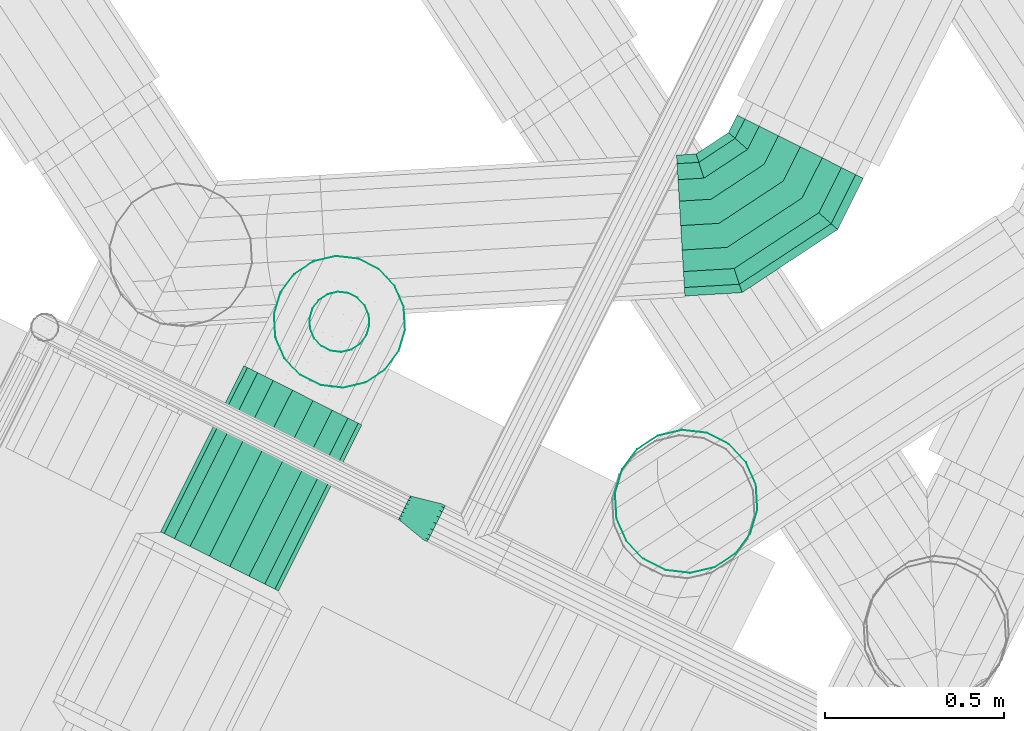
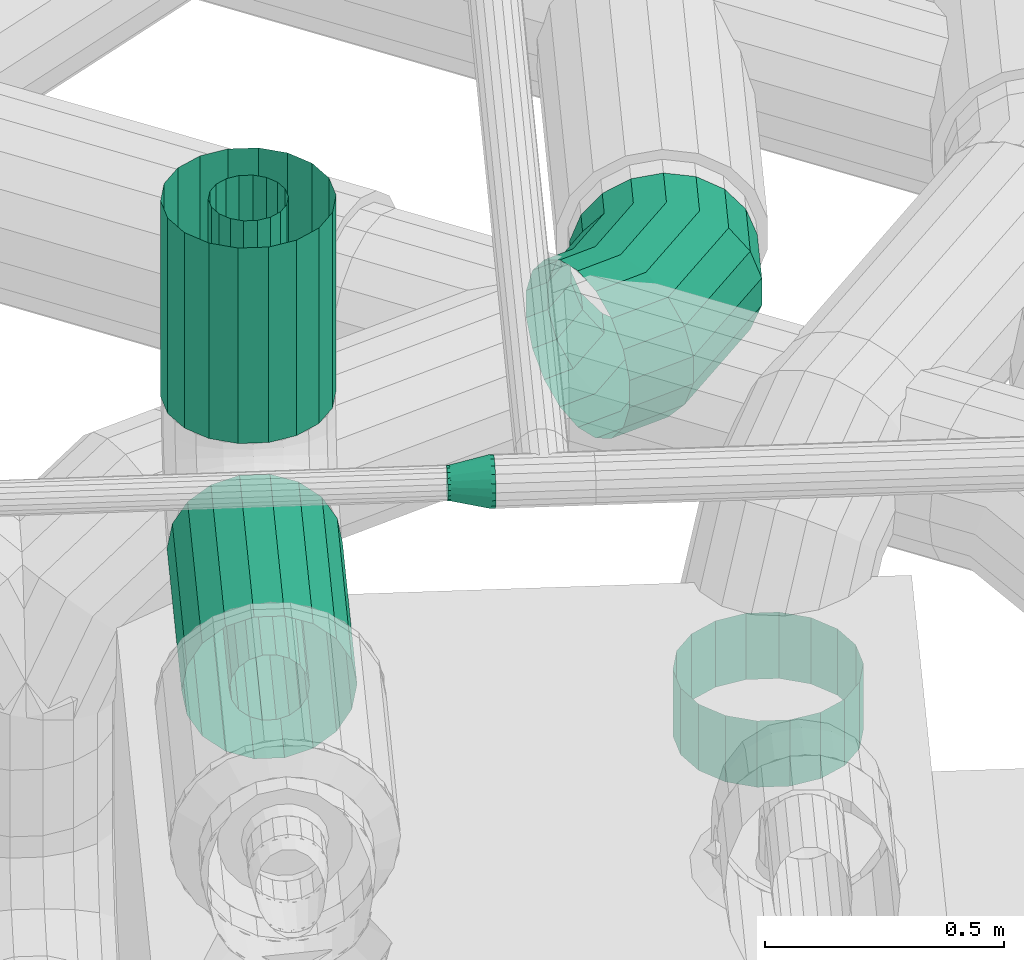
# One storey, part 135 of 206: 3 flow segments, 2 flow fittings.
"""IFC2X3 building model written with IfcOpenShell, lengths in metres."""

from ifc_helpers import new_model, si_unit, derived_unit, direction, frame, origin, place, context, subcontext, project, spatial, face_set, surface_model, source, transform, mapped, material, type_object, type_shapes, element, save


model = new_model("IFC2X3")

# Units and contexts
model_context = context("Model", 3, precision=5.2338327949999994e-05, world=origin(), true_north=direction((0.0, 1.0)))
body_context = subcontext(model_context, "Body", "Model", "MODEL_VIEW")
ifc_project = project(units=[si_unit("LENGTHUNIT", "METRE"), si_unit("AREAUNIT", "SQUARE_METRE"), si_unit("VOLUMEUNIT", "CUBIC_METRE"), si_unit("MASSUNIT", "GRAM", prefix="KILO"), si_unit("PLANEANGLEUNIT", "RADIAN"), derived_unit("THERMALTRANSMITTANCEUNIT", [(si_unit("MASSUNIT", "GRAM", prefix="KILO"), 1), (si_unit("THERMODYNAMICTEMPERATUREUNIT", "KELVIN"), -1), (si_unit("TIMEUNIT", "SECOND"), -3)])], contexts=[model_context])

# Site, building, storey
site_placement = place(None, frame((0.0, 0.0, 0.0), z_axis=(0.0, 0.0, 1.0), x_axis=(0.8939966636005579, -0.4480736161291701, 0.0)))
site = spatial("IfcSite", under=ifc_project, at=site_placement, Name="Default", CompositionType="ELEMENT")
building_placement = place(site_placement, origin())
building = spatial("IfcBuilding", under=site, at=building_placement, CompositionType="ELEMENT")
storey_placement = place(building_placement, origin())
storey = spatial("IfcBuildingStorey", under=building, at=storey_placement, Name="Erdgeschoss", CompositionType="ELEMENT", Elevation=0.0)

# Flow fitting
ifc_material_1 = material(Name="IfcSurfaceStyle #251447")
distribution_element_type_1 = type_object("IfcDistributionElementType", Name="Segmentbogen 3 teilig 296588:Segmentbogen 3 teilig 296588", material=ifc_material_1)
shared_shape_1 = source(origin(), body_context, "Body", "SurfaceModel", [
    surface_model("IfcFaceBasedSurfaceModel", [(23.815885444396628, 9.127019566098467, 2.0), (23.78168343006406, 9.186259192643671, 2.012061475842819), (23.858630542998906, 9.23068462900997, 2.012061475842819), (23.90870576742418, 9.180609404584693, 2.0), (23.751606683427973, 9.23835364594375, 2.0467911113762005), (23.81459512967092, 9.27472004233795, 2.0467911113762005), (23.72928290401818, 9.277019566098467, 2.0999999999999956), (23.781910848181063, 9.307404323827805, 2.0999999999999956), (23.7174046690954, 9.297593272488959, 2.1652703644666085), (23.764519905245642, 9.32479526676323, 2.1652703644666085), (23.7174046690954, 9.297593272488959, 2.2347296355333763), (23.764519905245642, 9.324795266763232, 2.2347296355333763), (23.729282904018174, 9.277019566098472, 2.2999999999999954), (23.78191084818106, 9.307404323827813, 2.2999999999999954), (23.751606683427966, 9.238353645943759, 2.3532088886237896), (23.81459512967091, 9.274720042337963, 2.353208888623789), (23.781683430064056, 9.186259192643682, 2.3879385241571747), (23.858630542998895, 9.230684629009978, 2.3879385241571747), (23.815885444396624, 9.127019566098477, 2.3999999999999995), (23.908705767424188, 9.18060940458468, 2.399999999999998), (23.850087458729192, 9.067779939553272, 2.3879385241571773), (23.95878099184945, 9.130534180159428, 2.3879385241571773), (23.88016420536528, 9.015685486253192, 2.3532088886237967), (24.002816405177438, 9.086498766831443, 2.3532088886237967), (23.902487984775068, 8.977019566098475, 2.300000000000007), (24.035500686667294, 9.05381448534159, 2.300000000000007), (23.914366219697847, 8.956445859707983, 2.23472963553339), (24.052891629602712, 9.036423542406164, 2.23472963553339), (23.914366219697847, 8.956445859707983, 2.1652703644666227), (24.052891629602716, 9.036423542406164, 2.1652703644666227), (23.902487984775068, 8.977019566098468, 2.100000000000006), (24.035500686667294, 9.053814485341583, 2.1000000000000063), (23.88016420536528, 9.015685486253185, 2.046791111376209), (24.002816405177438, 9.086498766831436, 2.0467911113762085), (23.850087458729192, 9.067779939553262, 2.012061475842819), (23.95878099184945, 9.130534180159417, 2.0120614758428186), (23.94748141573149, 9.384578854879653, 2.012061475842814), (24.015885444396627, 9.366250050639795, 2.0), (23.887327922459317, 9.400696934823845, 2.046791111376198), (23.842680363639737, 9.412660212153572, 2.0999999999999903), (23.818923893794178, 9.419025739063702, 2.1652703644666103), (23.818923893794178, 9.419025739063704, 2.2347296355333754), (23.842680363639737, 9.412660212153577, 2.2999999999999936), (23.88732792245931, 9.400696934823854, 2.3532088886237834), (23.947481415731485, 9.384578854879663, 2.387938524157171), (24.015885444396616, 9.366250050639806, 2.3999999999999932), (24.084289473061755, 9.347921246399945, 2.3879385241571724), (24.144442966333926, 9.331803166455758, 2.353208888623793), (24.189090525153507, 9.31983988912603, 2.300000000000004), (24.212846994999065, 9.313474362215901, 2.2347296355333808), (24.212846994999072, 9.313474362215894, 2.1652703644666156), (24.189090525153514, 9.319839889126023, 2.1), (24.144442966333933, 9.33180316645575, 2.0467911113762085), (24.084289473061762, 9.347921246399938, 2.012061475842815), (23.9474814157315, 9.473429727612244, 2.0120614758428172), (24.015885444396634, 9.473429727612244, 2.0), (23.88732792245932, 9.473429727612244, 2.0467911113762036), (23.842680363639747, 9.473429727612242, 2.100000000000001), (23.81892389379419, 9.473429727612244, 2.1652703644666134), (23.81892389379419, 9.473429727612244, 2.234729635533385), (23.84268036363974, 9.473429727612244, 2.299999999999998), (23.88732792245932, 9.473429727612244, 2.353208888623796), (23.9474814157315, 9.473429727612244, 2.387938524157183), (24.015885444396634, 9.473429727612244, 2.4000000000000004), (24.084289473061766, 9.473429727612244, 2.387938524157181), (24.14444296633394, 9.473429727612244, 2.353208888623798), (24.18909052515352, 9.473429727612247, 2.2999999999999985), (24.212846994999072, 9.473429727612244, 2.234729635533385), (24.212846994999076, 9.473429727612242, 2.165270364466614), (24.18909052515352, 9.473429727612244, 2.1000000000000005), (24.14444296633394, 9.473429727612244, 2.046791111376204), (24.084289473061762, 9.473429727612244, 2.012061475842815)], [face_set([[[0, 1, 2, 3]], [[1, 4, 5, 2]], [[4, 6, 7, 5]], [[6, 8, 9, 7]], [[8, 10, 11, 9]], [[10, 12, 13, 11]], [[12, 14, 15, 13]], [[14, 16, 17, 15]], [[16, 18, 19, 17]], [[18, 20, 21, 19]], [[20, 22, 23, 21]], [[22, 24, 25, 23]], [[24, 26, 27, 25]], [[26, 28, 29, 27]], [[28, 30, 31, 29]], [[30, 32, 33, 31]], [[32, 34, 35, 33]], [[34, 0, 3, 35]], [[3, 2, 36, 37]], [[2, 5, 38, 36]], [[5, 7, 39, 38]], [[7, 9, 40, 39]], [[9, 11, 41, 40]], [[11, 13, 42, 41]], [[13, 15, 43, 42]], [[15, 17, 44, 43]], [[17, 19, 45, 44]], [[19, 21, 46, 45]], [[21, 23, 47, 46]], [[23, 25, 48, 47]], [[25, 27, 49, 48]], [[27, 29, 50, 49]], [[29, 31, 51, 50]], [[31, 33, 52, 51]], [[33, 35, 53, 52]], [[35, 3, 37, 53]], [[37, 36, 54, 55]], [[36, 38, 56, 54]], [[38, 39, 57, 56]], [[39, 40, 58, 57]], [[40, 41, 59, 58]], [[41, 42, 60, 59]], [[42, 43, 61, 60]], [[43, 44, 62, 61]], [[44, 45, 63, 62]], [[45, 46, 64, 63]], [[46, 47, 65, 64]], [[47, 48, 66, 65]], [[48, 49, 67, 66]], [[49, 50, 68, 67]], [[50, 51, 69, 68]], [[51, 52, 70, 69]], [[52, 53, 71, 70]], [[53, 37, 55, 71]]])]),
])
type_shapes(distribution_element_type_1, [shared_shape_1])
flow_fitting_1_placement = place(storey_placement, origin())
element("IfcFlowFitting", 1, at=flow_fitting_1_placement, inside=storey, type_object=distribution_element_type_1, material=ifc_material_1, Name="Segmentbogen 3 teilig", ObjectType="Segmentbogen 3 teilig", context=body_context, shape_type="MappedRepresentation", body=[
    mapped(shared_shape_1, transform((0.0, 0.0, 0.0), scale=1.0)),
])

# Flow segments
ifc_material_2 = material(Name="IfcSurfaceStyle #1741")
distribution_element_type_2 = type_object("IfcDistributionElementType", Name="Stahlrohr nach DIN 2448 319069:Stahlrohr nach DIN 2448 319069", material=ifc_material_2)
shared_shape_2 = source(origin(), body_context, "Body", "SurfaceModel", [
    surface_model("IfcFaceBasedSurfaceModel", [(23.169003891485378, 8.459715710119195, 2.583), (23.16392902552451, 8.488496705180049, 2.583), (23.16392902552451, 8.488496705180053, 3.0829999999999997), (23.169003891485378, 8.459715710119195, 3.0829999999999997), (23.14931653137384, 8.513806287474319, 2.583), (23.14931653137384, 8.513806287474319, 3.0829999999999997), (23.126928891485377, 8.532591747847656, 2.583), (23.12692889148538, 8.532591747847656, 3.0829999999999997), (23.099466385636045, 8.542587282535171, 2.583), (23.099466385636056, 8.542587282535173, 3.0829999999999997), (23.070241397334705, 8.542587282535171, 2.583), (23.07024139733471, 8.542587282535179, 3.0829999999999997), (23.04277889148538, 8.532591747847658, 2.583), (23.04277889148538, 8.532591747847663, 3.0829999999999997), (23.02039125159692, 8.513806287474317, 2.583), (23.02039125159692, 8.513806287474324, 3.0829999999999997), (23.005778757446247, 8.488496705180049, 2.583), (23.005778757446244, 8.48849670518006, 3.0829999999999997), (23.000703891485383, 8.459715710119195, 2.5830000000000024), (23.000703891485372, 8.459715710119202, 3.0829999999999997), (23.005778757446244, 8.43093471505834, 2.583), (23.005778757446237, 8.43093471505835, 3.0829999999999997), (23.02039125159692, 8.405625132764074, 2.583), (23.02039125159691, 8.40562513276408, 3.0829999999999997), (23.04277889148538, 8.386839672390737, 2.583), (23.04277889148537, 8.386839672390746, 3.0829999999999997), (23.070241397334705, 8.37684413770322, 2.583), (23.0702413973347, 8.376844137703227, 3.0829999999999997), (23.099466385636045, 8.37684413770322, 2.583), (23.099466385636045, 8.376844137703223, 3.0829999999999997), (23.126928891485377, 8.386839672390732, 2.583), (23.126928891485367, 8.386839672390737, 3.0829999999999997), (23.14931653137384, 8.405625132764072, 2.583), (23.14931653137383, 8.405625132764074, 3.0829999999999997), (23.16392902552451, 8.430934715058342, 2.583), (23.163929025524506, 8.43093471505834, 3.0829999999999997), (23.269003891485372, 8.459715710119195, 2.583), (23.2578982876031, 8.522698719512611, 2.583), (23.257898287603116, 8.522698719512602, 3.0829999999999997), (23.269003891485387, 8.459715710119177, 3.0829999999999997), (23.22592097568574, 8.578085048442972, 2.583), (23.225920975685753, 8.578085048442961, 3.0829999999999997), (23.176928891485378, 8.619194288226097, 2.583), (23.1769288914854, 8.619194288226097, 3.0829999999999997), (23.116831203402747, 8.641068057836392, 2.583), (23.11683120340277, 8.6410680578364, 3.0829999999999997), (23.052876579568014, 8.64106805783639, 2.583), (23.052876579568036, 8.64106805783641, 3.0829999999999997), (22.992778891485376, 8.6191942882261, 2.583), (22.992778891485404, 8.61919428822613, 3.0829999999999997), (22.943786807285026, 8.578085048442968, 2.583), (22.94378680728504, 8.578085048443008, 3.0829999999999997), (22.911809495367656, 8.522698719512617, 2.583), (22.911809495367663, 8.52269871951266, 3.0829999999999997), (22.900703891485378, 8.459715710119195, 2.583), (22.900703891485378, 8.459715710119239, 3.0829999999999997), (22.911809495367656, 8.396732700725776, 2.583), (22.91180949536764, 8.39673270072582, 3.0829999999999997), (22.94378680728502, 8.34134637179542, 2.583), (22.943786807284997, 8.341346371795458, 3.0829999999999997), (22.992778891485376, 8.300237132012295, 2.583), (22.992778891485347, 8.300237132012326, 3.0829999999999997), (23.05287657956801, 8.278363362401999, 2.583), (23.05287657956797, 8.278363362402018, 3.0829999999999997), (23.116831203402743, 8.278363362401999, 2.583), (23.116831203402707, 8.278363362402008, 3.0829999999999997), (23.176928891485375, 8.300237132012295, 2.583), (23.17692889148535, 8.300237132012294, 3.0829999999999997), (23.225920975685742, 8.34134637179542, 2.583), (23.225920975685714, 8.34134637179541, 3.0829999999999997), (23.257898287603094, 8.396732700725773, 2.583), (23.257898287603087, 8.396732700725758, 3.0829999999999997)], [face_set([[[0, 1, 2, 3]], [[1, 4, 5, 2]], [[4, 6, 7, 5]], [[6, 8, 9, 7]], [[8, 10, 11, 9]], [[10, 12, 13, 11]], [[12, 14, 15, 13]], [[14, 16, 17, 15]], [[16, 18, 19, 17]], [[18, 20, 21, 19]], [[20, 22, 23, 21]], [[22, 24, 25, 23]], [[24, 26, 27, 25]], [[26, 28, 29, 27]], [[28, 30, 31, 29]], [[30, 32, 33, 31]], [[32, 34, 35, 33]], [[34, 0, 3, 35]], [[36, 37, 38, 39]], [[37, 40, 41, 38]], [[40, 42, 43, 41]], [[42, 44, 45, 43]], [[44, 46, 47, 45]], [[46, 48, 49, 47]], [[48, 50, 51, 49]], [[50, 52, 53, 51]], [[52, 54, 55, 53]], [[54, 56, 57, 55]], [[56, 58, 59, 57]], [[58, 60, 61, 59]], [[60, 62, 63, 61]], [[62, 64, 65, 63]], [[64, 66, 67, 65]], [[66, 68, 69, 67]], [[68, 70, 71, 69]], [[70, 36, 39, 71]]])]),
])
type_shapes(distribution_element_type_2, [shared_shape_2])
flow_segment_1_placement = place(storey_placement, origin())
element("IfcFlowSegment", 2, at=flow_segment_1_placement, inside=storey, type_object=distribution_element_type_2, material=ifc_material_2, Name="Stahlrohr nach DIN 2448", ObjectType="Stahlrohr nach DIN 2448", context=body_context, shape_type="MappedRepresentation", body=[
    mapped(shared_shape_2, transform((0.0, 0.0, 0.0), scale=1.0)),
])
distribution_element_type_3 = type_object("IfcDistributionElementType", Name="Stahlrohr nach DIN 2448 320998:Stahlrohr nach DIN 2448 320998", material=ifc_material_2)
shared_shape_3 = source(origin(), body_context, "Body", "SurfaceModel", [
    surface_model("IfcFaceBasedSurfaceModel", [(23.169003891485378, 8.230715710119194, 2.353999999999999), (23.16392902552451, 8.230715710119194, 2.382780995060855), (23.16392902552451, 7.711892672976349, 2.382780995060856), (23.169003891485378, 7.711892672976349, 2.3539999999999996), (23.14931653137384, 8.230715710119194, 2.40809057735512), (23.149316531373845, 7.711892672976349, 2.408090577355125), (23.126928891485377, 8.230715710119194, 2.426876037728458), (23.12692889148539, 7.711892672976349, 2.4268760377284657), (23.099466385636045, 8.230715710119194, 2.436871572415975), (23.099466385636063, 7.711892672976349, 2.436871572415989), (23.070241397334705, 8.230715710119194, 2.436871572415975), (23.07024139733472, 7.711892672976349, 2.436871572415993), (23.04277889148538, 8.230715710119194, 2.4268760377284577), (23.042778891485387, 7.711892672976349, 2.426876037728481), (23.02039125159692, 8.230715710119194, 2.40809057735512), (23.020391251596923, 7.711892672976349, 2.4080905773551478), (23.005778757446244, 8.230715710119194, 2.3827809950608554), (23.005778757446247, 7.711892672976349, 2.382780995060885), (23.000703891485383, 8.230715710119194, 2.353999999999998), (23.000703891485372, 7.711892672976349, 2.3540000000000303), (23.005778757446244, 8.230715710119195, 2.3252190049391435), (23.005778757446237, 7.711892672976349, 2.325219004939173), (23.020391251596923, 8.230715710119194, 2.2999094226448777), (23.020391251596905, 7.711892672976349, 2.2999094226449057), (23.042778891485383, 8.230715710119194, 2.2811239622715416), (23.042778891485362, 7.711892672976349, 2.281123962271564), (23.070241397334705, 8.230715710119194, 2.2711284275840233), (23.070241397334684, 7.711892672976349, 2.2711284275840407), (23.09946638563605, 8.230715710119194, 2.2711284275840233), (23.099466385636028, 7.711892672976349, 2.2711284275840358), (23.126928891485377, 8.230715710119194, 2.2811239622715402), (23.126928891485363, 7.711892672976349, 2.2811239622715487), (23.14931653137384, 8.230715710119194, 2.2999094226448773), (23.149316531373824, 7.711892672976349, 2.2999094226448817), (23.16392902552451, 8.230715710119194, 2.3252190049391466), (23.163929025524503, 7.711892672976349, 2.3252190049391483), (23.269003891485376, 8.230715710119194, 2.353999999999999), (23.25789828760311, 8.230715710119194, 2.4169830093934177), (23.257898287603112, 7.711892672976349, 2.4169830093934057), (23.269003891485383, 7.711892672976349, 2.3539999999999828), (23.22592097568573, 8.230715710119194, 2.4723693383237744), (23.22592097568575, 7.711892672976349, 2.4723693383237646), (23.176928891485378, 8.230715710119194, 2.5134785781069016), (23.1769288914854, 7.711892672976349, 2.513478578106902), (23.116831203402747, 8.230715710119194, 2.5353523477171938), (23.116831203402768, 7.711892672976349, 2.535352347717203), (23.052876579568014, 8.230715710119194, 2.535352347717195), (23.052876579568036, 7.711892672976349, 2.535352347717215), (22.992778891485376, 8.230715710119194, 2.5134785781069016), (22.992778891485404, 7.711892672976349, 2.513478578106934), (22.943786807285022, 8.230715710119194, 2.472369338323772), (22.943786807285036, 7.711892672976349, 2.472369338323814), (22.911809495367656, 8.230715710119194, 2.4169830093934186), (22.911809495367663, 7.711892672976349, 2.4169830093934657), (22.900703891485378, 8.230715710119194, 2.3539999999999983), (22.900703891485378, 7.711892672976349, 2.3540000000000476), (22.911809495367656, 8.230715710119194, 2.291016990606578), (22.91180949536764, 7.711892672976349, 2.2910169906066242), (22.943786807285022, 8.230715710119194, 2.2356306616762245), (22.943786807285, 7.711892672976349, 2.235630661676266), (22.992778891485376, 8.230715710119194, 2.1945214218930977), (22.992778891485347, 7.711892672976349, 2.1945214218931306), (23.052876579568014, 8.230715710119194, 2.1726476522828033), (23.052876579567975, 7.711892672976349, 2.1726476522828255), (23.116831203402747, 8.230715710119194, 2.1726476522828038), (23.116831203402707, 7.711892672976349, 2.172647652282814), (23.176928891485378, 8.230715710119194, 2.1945214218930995), (23.17692889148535, 7.711892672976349, 2.1945214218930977), (23.225920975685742, 8.230715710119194, 2.235630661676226), (23.22592097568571, 7.711892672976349, 2.235630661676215), (23.257898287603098, 8.230715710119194, 2.2910169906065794), (23.25789828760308, 7.711892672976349, 2.2910169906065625)], [face_set([[[0, 1, 2, 3]], [[1, 4, 5, 2]], [[4, 6, 7, 5]], [[6, 8, 9, 7]], [[8, 10, 11, 9]], [[10, 12, 13, 11]], [[12, 14, 15, 13]], [[14, 16, 17, 15]], [[16, 18, 19, 17]], [[18, 20, 21, 19]], [[20, 22, 23, 21]], [[22, 24, 25, 23]], [[24, 26, 27, 25]], [[26, 28, 29, 27]], [[28, 30, 31, 29]], [[30, 32, 33, 31]], [[32, 34, 35, 33]], [[34, 0, 3, 35]], [[36, 37, 38, 39]], [[37, 40, 41, 38]], [[40, 42, 43, 41]], [[42, 44, 45, 43]], [[44, 46, 47, 45]], [[46, 48, 49, 47]], [[48, 50, 51, 49]], [[50, 52, 53, 51]], [[52, 54, 55, 53]], [[54, 56, 57, 55]], [[56, 58, 59, 57]], [[58, 60, 61, 59]], [[60, 62, 63, 61]], [[62, 64, 65, 63]], [[64, 66, 67, 65]], [[66, 68, 69, 67]], [[68, 70, 71, 69]], [[70, 36, 39, 71]]])]),
])
type_shapes(distribution_element_type_3, [shared_shape_3])
flow_segment_2_placement = place(storey_placement, origin())
element("IfcFlowSegment", 3, at=flow_segment_2_placement, inside=storey, type_object=distribution_element_type_3, material=ifc_material_2, Name="Stahlrohr nach DIN 2448", ObjectType="Stahlrohr nach DIN 2448", context=body_context, shape_type="MappedRepresentation", body=[
    mapped(shared_shape_3, transform((0.0, 0.0, 0.0), scale=1.0)),
])

# Flow fitting
ifc_material_3 = material(Name="IfcSurfaceStyle #352577")
distribution_element_type_4 = type_object("IfcDistributionElementType", Name="Übergangsstück 358843:Übergangsstück 358843", material=ifc_material_3)
shared_shape_4 = source(origin(), body_context, "Body", "SurfaceModel", [
    surface_model("IfcFaceBasedSurfaceModel", [(23.578830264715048, 8.077162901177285, 2.662314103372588), (23.578830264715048, 8.096709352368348, 2.658867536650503), (23.570210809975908, 8.096709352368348, 2.658867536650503), (23.570210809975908, 8.077162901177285, 2.662314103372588), (23.578830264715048, 8.113898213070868, 2.6489435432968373), (23.570210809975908, 8.113898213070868, 2.6489435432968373), (23.578830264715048, 8.126656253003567, 2.633739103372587), (23.570210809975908, 8.126656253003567, 2.633739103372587), (23.578830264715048, 8.133444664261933, 2.615088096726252), (23.570210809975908, 8.133444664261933, 2.615088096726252), (23.578830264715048, 8.133444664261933, 2.5952401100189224), (23.570210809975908, 8.133444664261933, 2.5952401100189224), (23.578830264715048, 8.126656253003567, 2.576589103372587), (23.570210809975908, 8.126656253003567, 2.576589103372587), (23.578830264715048, 8.113898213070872, 2.561384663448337), (23.570210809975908, 8.113898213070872, 2.561384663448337), (23.578830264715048, 8.096709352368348, 2.5514606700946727), (23.570210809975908, 8.096709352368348, 2.5514606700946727), (23.578830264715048, 8.077162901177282, 2.5480141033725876), (23.570210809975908, 8.077162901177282, 2.5480141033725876), (23.57883026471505, 8.057616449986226, 2.5514606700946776), (23.570210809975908, 8.057616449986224, 2.551460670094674), (23.57883026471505, 8.040427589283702, 2.5613846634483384), (23.570210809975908, 8.040427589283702, 2.561384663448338), (23.578830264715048, 8.027669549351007, 2.576589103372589), (23.570210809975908, 8.027669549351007, 2.576589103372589), (23.578830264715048, 8.020881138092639, 2.595240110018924), (23.570210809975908, 8.020881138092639, 2.595240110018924), (23.578830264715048, 8.020881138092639, 2.615088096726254), (23.570210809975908, 8.020881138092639, 2.615088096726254), (23.578830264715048, 8.027669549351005, 2.633739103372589), (23.570210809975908, 8.027669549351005, 2.633739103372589), (23.578830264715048, 8.0404275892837, 2.648943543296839), (23.570210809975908, 8.0404275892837, 2.648943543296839), (23.578830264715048, 8.057616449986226, 2.658867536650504), (23.570210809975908, 8.057616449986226, 2.658867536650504), (23.570210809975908, 8.134312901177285, 2.605164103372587), (23.570210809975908, 8.130866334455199, 2.5856176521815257), (23.48544520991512, 8.112918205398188, 2.592150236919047), (23.48544520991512, 8.115212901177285, 2.6051641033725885), (23.570210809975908, 8.120942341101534, 2.568428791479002), (23.48544520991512, 8.106310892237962, 2.580706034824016), (23.570210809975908, 8.105737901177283, 2.555670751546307), (23.48544520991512, 8.096187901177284, 2.5722118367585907), (23.570210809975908, 8.08708689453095, 2.5488823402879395), (23.48544520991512, 8.083770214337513, 2.567692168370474), (23.570210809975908, 8.06723890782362, 2.5488823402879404), (23.48544520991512, 8.07055558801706, 2.567692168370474), (23.570210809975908, 8.048587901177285, 2.555670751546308), (23.48544520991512, 8.058137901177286, 2.57221183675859), (23.570210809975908, 8.033383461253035, 2.568428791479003), (23.48544520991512, 8.04801491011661, 2.580706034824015), (23.570210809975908, 8.023459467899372, 2.5856176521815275), (23.48544520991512, 8.04140759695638, 2.5921502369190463), (23.570210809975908, 8.020012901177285, 2.6051641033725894), (23.48544520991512, 8.039112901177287, 2.605164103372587), (23.570210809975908, 8.023459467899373, 2.6247105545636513), (23.48544520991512, 8.041407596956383, 2.61817796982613), (23.570210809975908, 8.033383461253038, 2.6418994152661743), (23.48544520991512, 8.048014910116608, 2.62962217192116), (23.570210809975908, 8.048587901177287, 2.654657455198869), (23.48544520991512, 8.058137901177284, 2.638116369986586), (23.570210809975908, 8.067238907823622, 2.6614458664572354), (23.48544520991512, 8.070555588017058, 2.642636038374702), (23.570210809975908, 8.08708689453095, 2.661445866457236), (23.48544520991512, 8.08377021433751, 2.6426360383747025), (23.570210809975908, 8.105737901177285, 2.6546574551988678), (23.48544520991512, 8.096187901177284, 2.638116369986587), (23.570210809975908, 8.120942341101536, 2.6418994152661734), (23.48544520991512, 8.10631089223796, 2.6296221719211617), (23.570210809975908, 8.130866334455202, 2.624710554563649), (23.48544520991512, 8.112918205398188, 2.6181779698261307), (23.48544520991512, 8.077162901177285, 2.6432141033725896), (23.48544520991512, 8.090176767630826, 2.640919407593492), (23.478830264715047, 8.090176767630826, 2.640919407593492), (23.478830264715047, 8.077162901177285, 2.6432141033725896), (23.48544520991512, 8.101620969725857, 2.6343120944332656), (23.478830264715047, 8.101620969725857, 2.6343120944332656), (23.48544520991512, 8.110115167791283, 2.624189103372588), (23.478830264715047, 8.110115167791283, 2.624189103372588), (23.48544520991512, 8.114634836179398, 2.611771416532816), (23.478830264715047, 8.114634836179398, 2.611771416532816), (23.48544520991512, 8.114634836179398, 2.5985567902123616), (23.478830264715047, 8.114634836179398, 2.5985567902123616), (23.48544520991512, 8.110115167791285, 2.5861391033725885), (23.478830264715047, 8.110115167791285, 2.5861391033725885), (23.48544520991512, 8.10162096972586, 2.576016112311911), (23.478830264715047, 8.10162096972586, 2.576016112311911), (23.48544520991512, 8.090176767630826, 2.5694087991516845), (23.478830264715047, 8.090176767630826, 2.5694087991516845), (23.48544520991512, 8.077162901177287, 2.567114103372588), (23.478830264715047, 8.077162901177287, 2.567114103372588), (23.48544520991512, 8.064149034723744, 2.5694087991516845), (23.478830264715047, 8.064149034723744, 2.5694087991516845), (23.48544520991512, 8.052704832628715, 2.5760161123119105), (23.478830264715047, 8.052704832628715, 2.5760161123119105), (23.48544520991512, 8.044210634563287, 2.5861391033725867), (23.478830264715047, 8.044210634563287, 2.5861391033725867), (23.48544520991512, 8.03969096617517, 2.598556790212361), (23.478830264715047, 8.03969096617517, 2.598556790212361), (23.48544520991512, 8.03969096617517, 2.611771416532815), (23.478830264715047, 8.03969096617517, 2.611771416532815), (23.48544520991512, 8.044210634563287, 2.6241891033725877), (23.478830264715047, 8.044210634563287, 2.6241891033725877), (23.48544520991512, 8.052704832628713, 2.634312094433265), (23.478830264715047, 8.052704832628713, 2.634312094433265), (23.48544520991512, 8.06414903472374, 2.640919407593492), (23.478830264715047, 8.06414903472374, 2.640919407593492)], [face_set([[[0, 1, 2, 3]], [[1, 4, 5, 2]], [[4, 6, 7, 5]], [[6, 8, 9, 7]], [[8, 10, 11, 9]], [[10, 12, 13, 11]], [[12, 14, 15, 13]], [[14, 16, 17, 15]], [[16, 18, 19, 17]], [[18, 20, 21, 19]], [[20, 22, 23, 21]], [[22, 24, 25, 23]], [[24, 26, 27, 25]], [[26, 28, 29, 27]], [[28, 30, 31, 29]], [[30, 32, 33, 31]], [[32, 34, 35, 33]], [[34, 0, 3, 35]], [[36, 37, 38, 39]], [[37, 40, 41, 38]], [[40, 42, 43, 41]], [[42, 44, 45, 43]], [[44, 46, 47, 45]], [[46, 48, 49, 47]], [[48, 50, 51, 49]], [[50, 52, 53, 51]], [[52, 54, 55, 53]], [[54, 56, 57, 55]], [[56, 58, 59, 57]], [[58, 60, 61, 59]], [[60, 62, 63, 61]], [[62, 64, 65, 63]], [[64, 66, 67, 65]], [[66, 68, 69, 67]], [[68, 70, 71, 69]], [[70, 36, 39, 71]], [[72, 73, 74, 75]], [[73, 76, 77, 74]], [[76, 78, 79, 77]], [[78, 80, 81, 79]], [[80, 82, 83, 81]], [[82, 84, 85, 83]], [[84, 86, 87, 85]], [[86, 88, 89, 87]], [[88, 90, 91, 89]], [[90, 92, 93, 91]], [[92, 94, 95, 93]], [[94, 96, 97, 95]], [[96, 98, 99, 97]], [[98, 100, 101, 99]], [[100, 102, 103, 101]], [[102, 104, 105, 103]], [[104, 106, 107, 105]], [[106, 72, 75, 107]]])]),
])
type_shapes(distribution_element_type_4, [shared_shape_4])
flow_fitting_2_placement = place(storey_placement, origin())
element("IfcFlowFitting", 4, at=flow_fitting_2_placement, inside=storey, type_object=distribution_element_type_4, material=ifc_material_3, Name="Übergangsstück", ObjectType="Übergangsstück", context=body_context, shape_type="MappedRepresentation", body=[
    mapped(shared_shape_4, transform((0.0, 0.0, 0.0), scale=1.0)),
])

# Flow segment
distribution_element_type_5 = type_object("IfcDistributionElementType", Name="Wickelfalzrohr 621946:Wickelfalzrohr 621946", material=ifc_material_1)
shared_shape_5 = source(origin(), body_context, "Body", "SurfaceModel", [
    surface_model("IfcFaceBasedSurfaceModel", [(24.37482169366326, 8.445275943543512, 1.6799999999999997), (24.36276021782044, 8.513679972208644, 1.6799999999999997), (24.36276021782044, 8.513679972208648, 1.8499999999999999), (24.374821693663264, 8.445275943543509, 1.8499999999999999), (24.328030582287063, 8.573833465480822, 1.6799999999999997), (24.32803058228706, 8.573833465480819, 1.8499999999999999), (24.274821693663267, 8.618481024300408, 1.6799999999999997), (24.274821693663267, 8.618481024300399, 1.8499999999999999), (24.20955132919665, 8.642237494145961, 1.6799999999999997), (24.20955132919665, 8.642237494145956, 1.8499999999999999), (24.14009205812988, 8.642237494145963, 1.6799999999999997), (24.14009205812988, 8.642237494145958, 1.8499999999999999), (24.074821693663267, 8.618481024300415, 1.6799999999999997), (24.074821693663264, 8.618481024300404, 1.8499999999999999), (24.02161280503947, 8.573833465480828, 1.6799999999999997), (24.02161280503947, 8.573833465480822, 1.8499999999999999), (23.98688316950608, 8.513679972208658, 1.6799999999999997), (23.98688316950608, 8.513679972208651, 1.8499999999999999), (23.974821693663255, 8.445275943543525, 1.6799999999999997), (23.974821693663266, 8.445275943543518, 1.8499999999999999), (23.986883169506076, 8.376871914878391, 1.6799999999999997), (23.98688316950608, 8.376871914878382, 1.8499999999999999), (24.02161280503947, 8.316718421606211, 1.6799999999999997), (24.021612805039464, 8.31671842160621, 1.8499999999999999), (24.07482169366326, 8.272070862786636, 1.6799999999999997), (24.074821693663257, 8.272070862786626, 1.8499999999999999), (24.140092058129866, 8.248314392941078, 1.6799999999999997), (24.140092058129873, 8.248314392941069, 1.8499999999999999), (24.209551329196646, 8.248314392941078, 1.6799999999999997), (24.209551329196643, 8.24831439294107, 1.8499999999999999), (24.274821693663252, 8.272070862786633, 1.6799999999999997), (24.274821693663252, 8.272070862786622, 1.8499999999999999), (24.32803058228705, 8.316718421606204, 1.6799999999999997), (24.32803058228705, 8.3167184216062, 1.8499999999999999), (24.362760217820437, 8.376871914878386, 1.6799999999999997), (24.362760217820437, 8.376871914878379, 1.8499999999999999)], [face_set([[[0, 1, 2, 3]], [[1, 4, 5, 2]], [[4, 6, 7, 5]], [[6, 8, 9, 7]], [[8, 10, 11, 9]], [[10, 12, 13, 11]], [[12, 14, 15, 13]], [[14, 16, 17, 15]], [[16, 18, 19, 17]], [[18, 20, 21, 19]], [[20, 22, 23, 21]], [[22, 24, 25, 23]], [[24, 26, 27, 25]], [[26, 28, 29, 27]], [[28, 30, 31, 29]], [[30, 32, 33, 31]], [[32, 34, 35, 33]], [[34, 0, 3, 35]]])]),
])
type_shapes(distribution_element_type_5, [shared_shape_5])
flow_segment_3_placement = place(storey_placement, origin())
element("IfcFlowSegment", 5, at=flow_segment_3_placement, inside=storey, type_object=distribution_element_type_5, material=ifc_material_1, Name="Wickelfalzrohr", ObjectType="Wickelfalzrohr", context=body_context, shape_type="MappedRepresentation", body=[
    mapped(shared_shape_5, transform((0.0, 0.0, 0.0), scale=1.0)),
])

save(model, "model.ifc")
